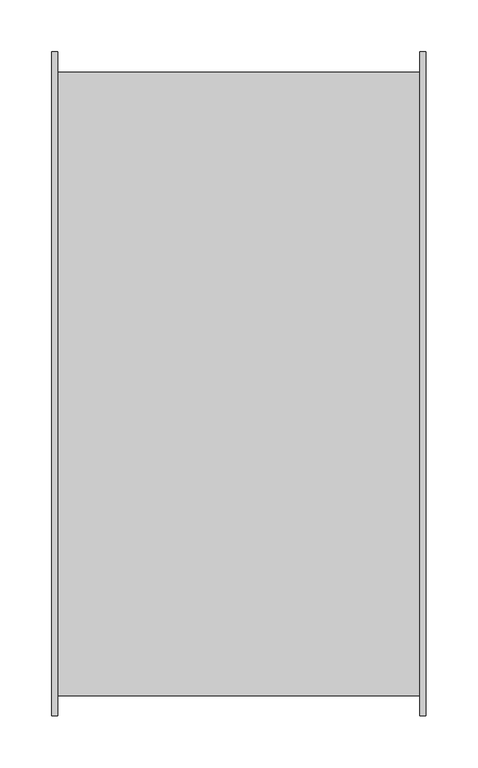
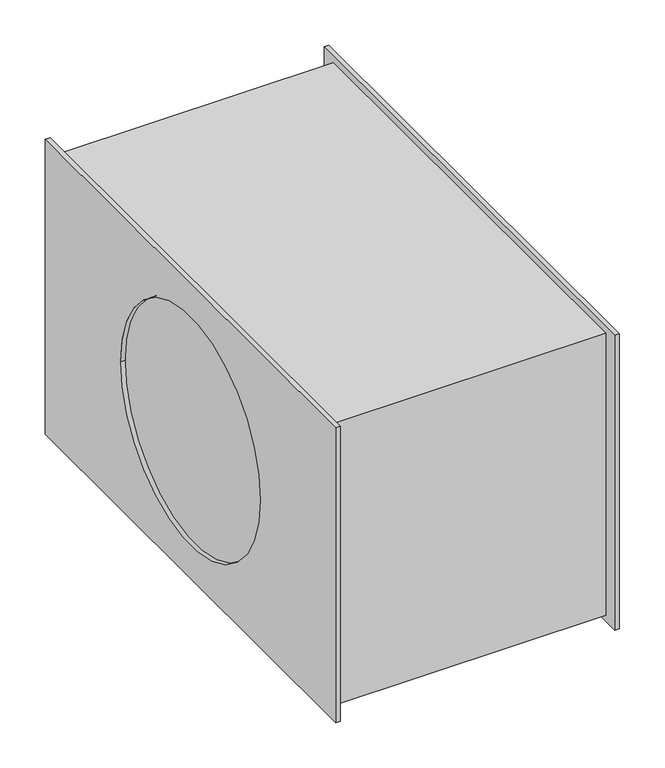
"""IFC4 building model written with IfcOpenShell, lengths in millimetres: unitary equipment geometry, VE-Wentylator-ParaForma-Harmann-JETTEC_REC_EC-Nawiewny : 060/35/4600EC."""

from ifc_helpers import new_model, si_unit, frame, origin, place, context, project, spatial, polyline, circle_curve, source, transform, mapped, element, save
from ifc_brep_helpers import plane_surface, revolved_surface, advanced_brep


def unitary_equipment_2e59ecbf(model_context):
    return source(origin(), model_context, "Body", "AdvancedBrep", [
        advanced_brep(
        [(174.3, -319.5, -198.0), (174.3, -319.5, 198.0), (174.3, 319.5, 198.0), (174.3, 319.5, -198.0), (174.3, -299.8, 188.7), (174.3, -299.8, -189.9), (174.3, 299.8, -189.9), (174.3, 299.8, 188.7), (180.1, -319.5, -198.0), (180.1, 319.5, -198.0), (180.1, 319.5, 198.0), (180.1, -319.5, 198.0), (180.1, -153.5, 0.0), (180.1, 153.5, 0.0), (174.3, 153.5, 0.0), (174.3, -153.5, 0.0), (-174.3, -153.5, 0.0), (-174.3, 153.5, 0.0), (-174.3, -299.8, -189.9), (-174.3, -299.8, 188.7), (-174.3, 299.8, 188.7), (-174.3, 299.8, -189.9), (-180.1, -319.5, -198.0), (-180.1, -319.5, 198.0), (-180.1, 319.5, 198.0), (-180.1, 319.5, -198.0), (-180.1, 153.5, 0.0), (-180.1, -153.5, 0.0), (-174.3, -319.5, -198.0), (-174.3, 319.5, -198.0), (-174.3, 319.5, 198.0), (-174.3, -319.5, 198.0)],
        [
            (0, 1),
            (1, 2),
            (2, 3),
            (3, 0),
            (4, 5),
            (5, 6),
            (6, 7),
            (7, 4),
            (8, 9),
            (9, 10),
            (10, 11),
            (11, 8),
            (12, 13, circle_curve(frame((180.1, 0.0, 0.0), z_axis=(-1.0, 0.0, 0.0), x_axis=(0.0, 1.0, 0.0)), 153.5)),
            (13, 12, circle_curve(frame((180.1, 0.0, 0.0), z_axis=(-1.0, 0.0, 0.0), x_axis=(0.0, 1.0, 0.0)), 153.5)),
            (0, 8),
            (11, 1),
            (10, 2),
            (9, 3),
            (14, 13),
            (12, 15),
            (15, 14, circle_curve(frame((174.3, 0.0, 0.0), z_axis=(-1.0, 0.0, 0.0), x_axis=(0.0, 1.0, 0.0)), 153.5)),
            (14, 15, circle_curve(frame((174.3, 0.0, 0.0), z_axis=(-1.0, 0.0, 0.0), x_axis=(0.0, 1.0, 0.0)), 153.5)),
            (16, 17, circle_curve(frame((-174.3, 0.0, 0.0), z_axis=(-1.0, 0.0, 0.0), x_axis=(0.0, 1.0, 0.0)), 153.5)),
            (17, 16, circle_curve(frame((-174.3, 0.0, 0.0), z_axis=(-1.0, 0.0, 0.0), x_axis=(0.0, 1.0, 0.0)), 153.5)),
            (18, 5),
            (4, 19),
            (19, 18),
            (7, 20),
            (20, 19),
            (6, 21),
            (21, 20),
            (18, 21),
            (22, 23),
            (23, 24),
            (24, 25),
            (25, 22),
            (26, 27, circle_curve(frame((-180.1, 0.0, 0.0), z_axis=(1.0, 0.0, 0.0), x_axis=(0.0, 1.0, 0.0)), 153.5)),
            (27, 26, circle_curve(frame((-180.1, 0.0, 0.0), z_axis=(1.0, 0.0, 0.0), x_axis=(0.0, 1.0, 0.0)), 153.5)),
            (28, 29),
            (29, 30),
            (30, 31),
            (31, 28),
            (22, 28),
            (31, 23),
            (30, 24),
            (29, 25),
            (26, 17),
            (16, 27),
        ],
        [
            plane_surface(frame((174.3, 0.0, 0.0), z_axis=(-1.0, 0.0, 0.0), x_axis=(0.0, 0.0, 1.0))),
            plane_surface(frame((180.1, 0.0, 0.0), z_axis=(1.0, 0.0, 0.0), x_axis=(0.0, 0.0, 1.0))),
            plane_surface(frame((174.3, -319.5, -198.0), z_axis=(0.0, -1.0, 0.0), x_axis=(1.0, 0.0, 0.0))),
            plane_surface(frame((174.3, -319.5, 198.0), z_axis=(0.0, 0.0, 1.0), x_axis=(1.0, 0.0, 0.0))),
            plane_surface(frame((174.3, 319.5, 198.0), z_axis=(0.0, 1.0, 0.0), x_axis=(1.0, 0.0, 0.0))),
            plane_surface(frame((174.3, 319.5, -198.0), z_axis=(0.0, 0.0, -1.0), x_axis=(1.0, 0.0, 0.0))),
            revolved_surface(polyline([(174.3, 153.5, 0.0), (180.1, 153.5, 0.0)]), (174.3, 0.0, 0.0), (-1.0, 0.0, 0.0)),
            plane_surface(frame((-174.3, 0.0, 0.0), z_axis=(-1.0, 0.0, 0.0), x_axis=(0.0, 0.0, 1.0))),
            plane_surface(frame((174.3, 0.0, 0.0), z_axis=(1.0, 0.0, 0.0), x_axis=(0.0, 0.0, 1.0))),
            plane_surface(frame((-174.3, -299.8, -189.9), z_axis=(0.0, -1.0, 0.0), x_axis=(1.0, 0.0, 0.0))),
            plane_surface(frame((-174.3, -299.8, 188.7), z_axis=(0.0, 0.0, 1.0), x_axis=(1.0, 0.0, 0.0))),
            plane_surface(frame((-174.3, 299.8, 188.7), z_axis=(0.0, 1.0, 0.0), x_axis=(1.0, 0.0, 0.0))),
            plane_surface(frame((-174.3, 299.8, -189.9), z_axis=(0.0, 0.0, -1.0), x_axis=(1.0, 0.0, 0.0))),
            plane_surface(frame((-180.1, 0.0, 0.0), z_axis=(-1.0, 0.0, 0.0), x_axis=(0.0, 0.0, 1.0))),
            plane_surface(frame((-174.3, 0.0, 0.0), z_axis=(1.0, 0.0, 0.0), x_axis=(0.0, 0.0, 1.0))),
            plane_surface(frame((-180.1, -319.5, -198.0), z_axis=(0.0, -1.0, 0.0), x_axis=(1.0, 0.0, 0.0))),
            plane_surface(frame((-180.1, -319.5, 198.0), z_axis=(0.0, 0.0, 1.0), x_axis=(1.0, 0.0, 0.0))),
            plane_surface(frame((-180.1, 319.5, 198.0), z_axis=(0.0, 1.0, 0.0), x_axis=(1.0, 0.0, 0.0))),
            plane_surface(frame((-180.1, 319.5, -198.0), z_axis=(0.0, 0.0, -1.0), x_axis=(1.0, 0.0, 0.0))),
            revolved_surface(polyline([(-180.1, 153.5, 0.0), (-174.3, 153.5, 0.0)]), (-180.1, 0.0, 0.0), (-1.0, 0.0, 0.0)),
        ],
        [
            (0, [[1, 2, 3, 4], [5, 6, 7, 8]]),
            (1, [[9, 10, 11, 12], [13, 14]]),
            (2, [[-1, 15, -12, 16]]),
            (3, [[-2, -16, -11, 17]]),
            (4, [[-3, -17, -10, 18]]),
            (5, [[-4, -18, -9, -15]]),
            (6, [[19, -13, 20, 21]]),
            (6, [[-19, 22, -20, -14]]),
            (7, [[23, 24]]),
            (8, [[-21, -22]]),
            (9, [[25, -5, 26, 27]]),
            (10, [[-26, -8, 28, 29]]),
            (11, [[-28, -7, 30, 31]]),
            (12, [[-25, 32, -30, -6]]),
            (13, [[33, 34, 35, 36], [37, 38]]),
            (14, [[39, 40, 41, 42], [-27, -29, -31, -32]]),
            (15, [[-33, 43, -42, 44]]),
            (16, [[-34, -44, -41, 45]]),
            (17, [[-35, -45, -40, 46]]),
            (18, [[-36, -46, -39, -43]]),
            (19, [[47, -23, 48, -37]]),
            (19, [[-47, -38, -48, -24]]),
        ],
    ),
    ])


if __name__ == "__main__":
    model = new_model("IFC4")
    model_context = context("Model", 3, world=origin())
    ifc_project = project(units=[si_unit("LENGTHUNIT", "METRE", prefix="MILLI")], contexts=[model_context])
    site = spatial("IfcSite", under=ifc_project)
    building = spatial("IfcBuilding", under=site)
    placement = place(None, origin())
    unitary_equipment_shape = unitary_equipment_2e59ecbf(model_context)
    element("IfcUnitaryEquipment", 1, ObjectType="VE-Wentylator-ParaForma-Harmann-JETTEC_REC_EC-Nawiewny : 060/35/4600EC", at=placement, inside=building, context=model_context, shape_type="MappedRepresentation", body=[
        mapped(unitary_equipment_shape, transform((0.0, 0.0, 0.0), x_axis=(1.0, 0.0, 0.0), y_axis=(0.0, 1.0, 0.0), z_axis=(0.0, 0.0, 1.0))),
    ])
    save(model, "model.ifc")
